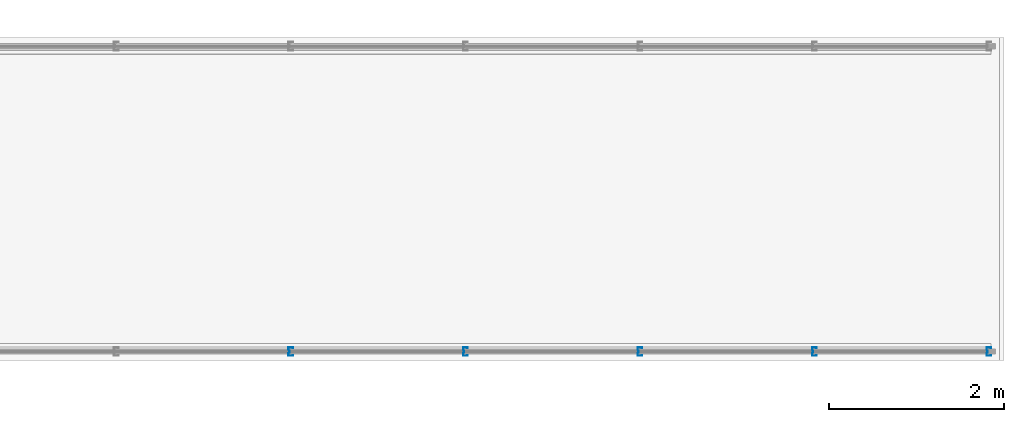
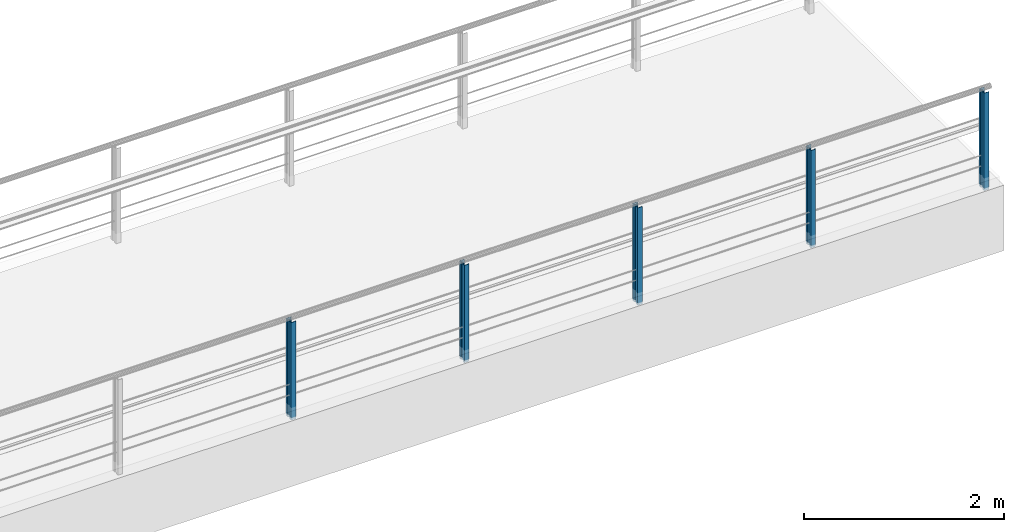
# One storey, part 17 of 31: 5 beams.
"""IFC2X3 building model written with IfcOpenShell, lengths in millimetres."""

import ifcopenshell
import ifcopenshell.guid

model = None  # the IFC model being written
_history = None  # IfcOwnerHistory: only IFC2X3 demands one
_inside = {}  # id of a spatial element -> (the spatial element, [elements in it])
_under = {}  # id of a project, library or spatial element -> (it, [spatial elements below it])
_declared = {}  # id of a project -> (the project, [libraries it declares])
_typed = {}  # id of a type object -> (the type object, [elements of that type])
_made_of = {}  # id of a material, layer set ... -> (it, [elements and type objects made of it])


def new_model(schema):
    """Start an empty IFC model of exactly this schema.

    Asked for "IFC4X3", IfcOpenShell would pick the latest addendum, in which some entities
    have other attributes; the version numbers below select the first issue.
    IFC2X3 requires an IfcOwnerHistory on every rooted entity: one is made here for all.
    """
    global model, _history
    if schema == "IFC4X3":
        model = ifcopenshell.file(schema_version=(4, 3, 0, 0))
    else:
        model = ifcopenshell.file(schema=schema)
    _inside.clear()
    _under.clear()
    _declared.clear()
    _typed.clear()
    _made_of.clear()
    _history = None
    if model.schema == "IFC2X3":
        org = make("IfcOrganization", Name="unknown")
        user = make(
            "IfcPersonAndOrganization",
            ThePerson=make("IfcPerson", FamilyName="unknown"),
            TheOrganization=org,
        )
        app = make(
            "IfcApplication",
            ApplicationDeveloper=org,
            Version="unknown",
            ApplicationFullName="unknown",
            ApplicationIdentifier="unknown",
        )
        _history = make(
            "IfcOwnerHistory",
            OwningUser=user,
            OwningApplication=app,
            ChangeAction="ADDED",
            CreationDate=0,
        )
    return model


def make(cls, **values):
    """One entity of the class cls with the attributes given. An attribute that is None is left unset."""
    return model.create_entity(
        cls, **{name: value for name, value in values.items() if value is not None}
    )


def rooted(cls, **values):
    """An entity with a GlobalId (a new one), such as an element, a storey or a relation."""
    return make(cls, GlobalId=ifcopenshell.guid.new(), OwnerHistory=_history, **values)


def si_unit(unit_type, name, prefix=None):
    """IfcSIUnit, for example si_unit("LENGTHUNIT", "METRE", prefix="MILLI")."""
    return make("IfcSIUnit", UnitType=unit_type, Prefix=prefix, Name=name)


def assignment(units):
    """IfcUnitAssignment: the units of a project."""
    return None if units is None else make("IfcUnitAssignment", Units=units)


def point(xyz):
    """IfcCartesianPoint."""
    return None if xyz is None else make("IfcCartesianPoint", Coordinates=xyz)


def direction(xyz):
    """IfcDirection."""
    return None if xyz is None else make("IfcDirection", DirectionRatios=xyz)


def frame(location, z_axis=None, x_axis=None):
    """IfcAxis2Placement3D, a coordinate frame: its origin and axes. An axis left out is left unset."""
    return make(
        "IfcAxis2Placement3D",
        Location=point(location),
        Axis=direction(z_axis),
        RefDirection=direction(x_axis),
    )


def origin_with_axes():
    """The frame at (0, 0, 0) with the z axis (0, 0, 1) and the x axis (1, 0, 0) written out."""
    return frame((0.0, 0.0, 0.0), z_axis=(0.0, 0.0, 1.0), x_axis=(1.0, 0.0, 0.0))


def place(relative_to, where):
    """IfcLocalPlacement: puts the frame where relative to a parent placement (None: the world)."""
    return make(
        "IfcLocalPlacement", PlacementRelTo=relative_to, RelativePlacement=where
    )


def context(
    kind, dimensions, precision=None, world=None, true_north=None, identifier=None
):
    """IfcGeometricRepresentationContext, for example the 3D "Model" context."""
    return make(
        "IfcGeometricRepresentationContext",
        ContextIdentifier=identifier,
        ContextType=kind,
        CoordinateSpaceDimension=dimensions,
        Precision=precision,
        WorldCoordinateSystem=world,
        TrueNorth=true_north,
    )


def subcontext(parent, identifier, kind, view, scale=None):
    """IfcGeometricRepresentationSubContext, for example "Body" below "Model"."""
    return make(
        "IfcGeometricRepresentationSubContext",
        ContextIdentifier=identifier,
        ContextType=kind,
        ParentContext=parent,
        TargetScale=scale,
        TargetView=view,
    )


def project(units=None, contexts=None):
    """IfcProject with its units and contexts."""
    return rooted(
        "IfcProject",
        Name="project",
        RepresentationContexts=contexts,
        UnitsInContext=assignment(units),
    )


def spatial(cls, under=None, at=None, **own):
    """A site, building, storey or space (cls), placed at a placement, below another one or the project."""
    s = rooted(cls, ObjectPlacement=at, **own)
    if under is not None:
        _under.setdefault(under.id(), (under, []))[1].append(s)
    return s


def faces_of(points, faces, orient=None, outer=None):
    """IfcFace entities. A face is a list of loops; a loop is a list of indices into points, from 0.

    orient and outer hold one flag for each loop. By default every Orientation is true, the
    first loop of a face is its IfcFaceOuterBound and the others are IfcFaceBound.
    """
    made = []
    for i, loops in enumerate(faces):
        bounds = []
        for j, loop in enumerate(loops):
            is_outer = j == 0 if outer is None else outer[i][j]
            bounds.append(
                make(
                    "IfcFaceOuterBound" if is_outer else "IfcFaceBound",
                    Bound=make("IfcPolyLoop", Polygon=[points[k] for k in loop]),
                    Orientation=True if orient is None else orient[i][j],
                )
            )
        made.append(make("IfcFace", Bounds=bounds))
    return made


def faceted_brep(points, faces, orient=None, outer=None, voids=None):
    """IfcFacetedBrep: a solid bounded by flat faces; with voids (closed shells), ...WithVoids."""
    shared = [point(p) for p in points]
    hull = make("IfcClosedShell", CfsFaces=faces_of(shared, faces, orient, outer))
    if voids is None:
        return make("IfcFacetedBrep", Outer=hull)
    return make(
        "IfcFacetedBrepWithVoids",
        Outer=hull,
        Voids=[
            make(cls, CfsFaces=faces_of(shared, fs, o, b)) for cls, fs, o, b in voids
        ],
    )


def shape(context_of_items, identifier, shape_type, items):
    """IfcShapeRepresentation: the items that make up one representation, for example the "Body"."""
    return make(
        "IfcShapeRepresentation",
        ContextOfItems=context_of_items,
        RepresentationIdentifier=identifier,
        RepresentationType=shape_type,
        Items=items,
    )


def material(Name=None, Category=None):
    """IfcMaterial."""
    return make("IfcMaterial", Name=Name, Category=Category)


def made_of(thing, what):
    """Note that an element or type object is made of a material, layer set ...; save() writes the relation."""
    if what is not None:
        _made_of.setdefault(what.id(), (what, []))[1].append(thing)
    return thing


def type_object(cls, material=None, **own):
    """A type object (cls), such as IfcWallType, which elements share."""
    return made_of(rooted(cls, **own), material)


def element(
    cls,
    number,
    at=None,
    inside=None,
    cuts=None,
    type_object=None,
    material=None,
    context=None,
    identifier="Body",
    shape_type=None,
    held_by="IfcProductDefinitionShape",
    body=None,
    shapes=None,
    **own,
):
    """One element of the class cls, such as IfcWall. Its Tag is "e" and its number.

    at: its placement. inside: the storey or other place that contains it. cuts: it is an
    opening in that element (IfcRelVoidsElement). A single representation is given by context,
    identifier, shape_type and body (its items); several are given by shapes. held_by: the class
    of the entity that holds the representations. save() writes the other relations.
    """
    e = rooted(cls, Tag="e%d" % number, ObjectPlacement=at, **own)
    if body is not None:
        shapes = [shape(context, identifier, shape_type, body)]
    if shapes is not None:
        e.Representation = make(held_by, Representations=shapes)
    if inside is not None:
        _inside.setdefault(inside.id(), (inside, []))[1].append(e)
    if cuts is not None:
        rooted(
            "IfcRelVoidsElement", RelatingBuildingElement=cuts, RelatedOpeningElement=e
        )
    if type_object is not None:
        _typed.setdefault(type_object.id(), (type_object, []))[1].append(e)
    return made_of(e, material)


def aggregate(whole, parts):
    """IfcRelAggregates: a whole, such as a stair, and the parts it consists of."""
    return rooted("IfcRelAggregates", RelatingObject=whole, RelatedObjects=parts)


def save(model, path):
    """Write the relations noted so far, then the file.

    IfcRelAggregates (storeys below a building ...), IfcRelContainedInSpatialStructure (elements
    in a storey), IfcRelDefinesByType, IfcRelAssociatesMaterial and IfcRelDeclares: one each for
    every whole, place, type object, material and project.
    """
    for whole, parts in _under.values():
        aggregate(whole, parts)
    for where, things in _inside.values():
        rooted(
            "IfcRelContainedInSpatialStructure",
            RelatedElements=things,
            RelatingStructure=where,
        )
    for kind, things in _typed.values():
        rooted("IfcRelDefinesByType", RelatedObjects=things, RelatingType=kind)
    for what, things in _made_of.values():
        rooted("IfcRelAssociatesMaterial", RelatedObjects=things, RelatingMaterial=what)
    for by, libraries in _declared.values():
        rooted("IfcRelDeclares", RelatingContext=by, RelatedDefinitions=libraries)
    model.write(path)


model = new_model("IFC2X3")

# Units and contexts
model_context = context("Model", 3, precision=1e-05, world=origin_with_axes())
body_context = subcontext(model_context, "Body", "Model", "MODEL_VIEW")
ifc_project = project(units=[si_unit("LENGTHUNIT", "METRE", prefix="MILLI"), si_unit("AREAUNIT", "SQUARE_METRE"), si_unit("VOLUMEUNIT", "CUBIC_METRE"), si_unit("MASSUNIT", "GRAM", prefix="KILO"), si_unit("TIMEUNIT", "SECOND"), si_unit("PLANEANGLEUNIT", "RADIAN"), si_unit("SOLIDANGLEUNIT", "STERADIAN"), si_unit("THERMODYNAMICTEMPERATUREUNIT", "DEGREE_CELSIUS"), si_unit("LUMINOUSINTENSITYUNIT", "LUMEN")], contexts=[model_context])

# Site, building, storey
site_placement = place(None, origin_with_axes())
site = spatial("IfcSite", under=ifc_project, at=site_placement, Name="Undefined", CompositionType="ELEMENT")
building_placement = place(site_placement, origin_with_axes())
building = spatial("IfcBuilding", under=site, at=building_placement, Name="Undefined", CompositionType="ELEMENT")
storey_placement = place(building_placement, origin_with_axes())
storey = spatial("IfcBuildingStorey", under=building, at=storey_placement, Name="Undefined", CompositionType="ELEMENT", Elevation=0.0)

# Beams
ifc_material = material(Name="STEEL/S355J2+N")
beam_type = type_object("IfcBeamType", Name="CW100-5-10*55-10-30", PredefinedType="NOTDEFINED")
for number, where, z_axis, x_axis, name in (
    (1, (31577.5, -600.0, 1040.0), (0.0, 1.0, 0.0), (0.0, 0.0, -1.0), "BB-STOLPE"),
    (2, (33577.5, -600.0, 1040.0), (0.0, 1.0, 0.0), (0.0, 0.0, -1.0), "BB-STOLPE"),
    (3, (35577.5, -600.0, 1040.0), (0.0, 1.0, 0.0), (0.0, 0.0, -1.0), "BB-STOLPE"),
    (4, (37577.5, -600.0, 1040.0), (0.0, 1.0, 0.0), (0.0, 0.0, -1.0), "BB-STOLPE"),
    (5, (39577.5, -600.0, 1040.0), (0.0, 1.0, 0.0), (0.0, 0.0, -1.0), "BB-STOLPE"),
):
    element("IfcBeam", number, at=place(storey_placement, frame(where, z_axis=z_axis, x_axis=x_axis)), inside=storey, type_object=beam_type, material=ifc_material, Name=name, context=body_context, shape_type="Brep", body=[
        faceted_brep([(0.0, -27.5, -50.0), (0.0, 27.5, -50.0), (1190.0, 27.5, -50.0), (1190.0, -27.5, -50.0), (0.0, 27.5, -20.0), (1190.0, 27.5, -20.0), (0.0, 17.5, -10.0), (1190.0, 17.5, -10.0), (0.0, 17.5, 10.0), (1190.0, 17.5, 10.0), (0.0, 27.5, 20.0), (1190.0, 27.5, 20.0), (0.0, 27.5, 50.0), (1190.0, 27.5, 50.0), (0.0, -27.5, 50.0), (1190.0, -27.5, 50.0), (0.0, -27.5, 40.0), (1190.0, -27.5, 40.0), (0.0, -22.5, 40.0), (1190.0, -22.5, 40.0), (0.0, -22.5, 45.0), (1190.0, -22.5, 45.0), (0.0, 22.5, 45.0), (1190.0, 22.5, 45.0), (0.0, 22.5, 21.9149999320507), (1190.0, 22.5, 21.9149999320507), (0.0, 12.5, 11.9149999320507), (1190.0, 12.5, 11.9149999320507), (0.0, 12.5, -11.9149999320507), (1190.0, 12.5, -11.9149999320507), (0.0, 22.5, -21.9149999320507), (1190.0, 22.5, -21.9149999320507), (0.0, 22.5, -45.0), (1190.0, 22.5, -45.0), (0.0, -22.5, -45.0), (1190.0, -22.5, -45.0), (0.0, -22.5, -40.0), (1190.0, -22.5, -40.0), (0.0, -27.5, -40.0), (1190.0, -27.5, -40.0)], [[[0, 1, 2, 3]], [[1, 4, 5, 2]], [[4, 6, 7, 5]], [[6, 8, 9, 7]], [[8, 10, 11, 9]], [[10, 12, 13, 11]], [[12, 14, 15, 13]], [[14, 16, 17, 15]], [[16, 18, 19, 17]], [[18, 20, 21, 19]], [[20, 22, 23, 21]], [[22, 24, 25, 23]], [[24, 26, 27, 25]], [[26, 28, 29, 27]], [[28, 30, 31, 29]], [[30, 32, 33, 31]], [[32, 34, 35, 33]], [[34, 36, 37, 35]], [[36, 38, 39, 37]], [[38, 0, 3, 39]], [[5, 7, 9, 11, 13, 15, 17, 19, 21, 23, 25, 27, 29, 31, 33, 35, 37, 39, 3, 2]], [[38, 36, 34, 32, 30, 28, 26, 24, 22, 20, 18, 16, 14, 12, 10, 8, 6, 4, 1, 0]]]),
    ])

save(model, "model.ifc")
